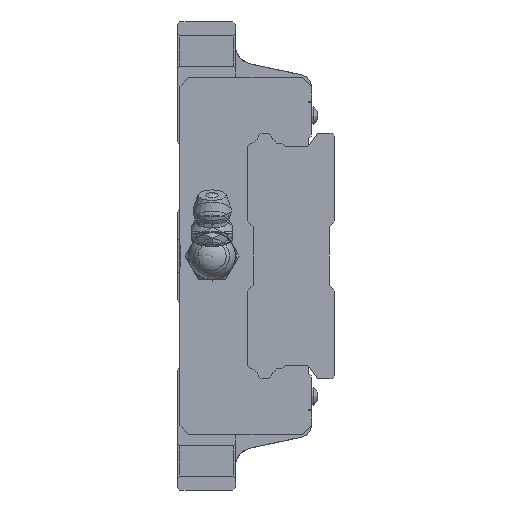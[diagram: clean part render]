
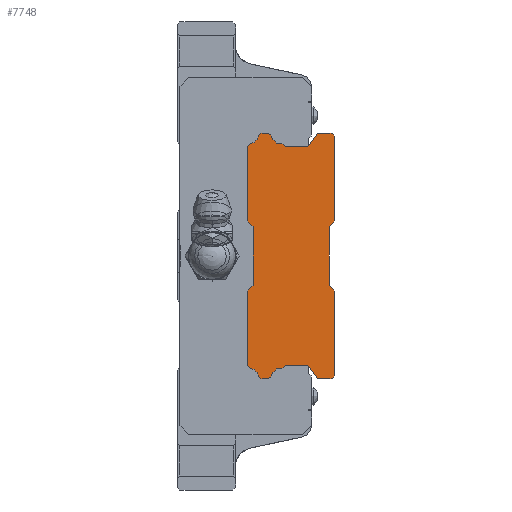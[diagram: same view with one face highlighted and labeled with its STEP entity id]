
A CAD part, left-side view. The second image highlights one B-rep face of the part: STEP entity #7748.
In plain terms, the highlighted planar face has unit normal (-1, 0, 0).
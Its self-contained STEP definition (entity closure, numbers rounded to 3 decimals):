
#314=LINE('',#12648,#670);
#318=LINE('',#12657,#674);
#321=LINE('',#12663,#677);
#325=LINE('',#12675,#681);
#328=LINE('',#12681,#684);
#331=LINE('',#12687,#687);
#334=LINE('',#12693,#690);
#337=LINE('',#12699,#693);
#340=LINE('',#12805,#696);
#343=LINE('',#12811,#699);
#346=LINE('',#12817,#702);
#349=LINE('',#12823,#705);
#352=LINE('',#12929,#708);
#355=LINE('',#12935,#711);
#358=LINE('',#12941,#714);
#361=LINE('',#12947,#717);
#364=LINE('',#12953,#720);
#367=LINE('',#12959,#723);
#371=LINE('',#12971,#727);
#374=LINE('',#12977,#730);
#377=LINE('',#12983,#733);
#381=LINE('',#12995,#737);
#384=LINE('',#13101,#740);
#387=LINE('',#13107,#743);
#390=LINE('',#13113,#746);
#393=LINE('',#13119,#749);
#396=LINE('',#13225,#752);
#399=LINE('',#13231,#755);
#670=VECTOR('',#10010,1000.);
#674=VECTOR('',#10016,1000.);
#677=VECTOR('',#10021,1000.);
#681=VECTOR('',#10033,1000.);
#684=VECTOR('',#10038,1000.);
#687=VECTOR('',#10043,1000.);
#690=VECTOR('',#10048,1000.);
#693=VECTOR('',#10053,1000.);
#696=VECTOR('',#10158,1000.);
#699=VECTOR('',#10163,1000.);
#702=VECTOR('',#10168,1000.);
#705=VECTOR('',#10173,1000.);
#708=VECTOR('',#10278,1000.);
#711=VECTOR('',#10283,1000.);
#714=VECTOR('',#10288,1000.);
#717=VECTOR('',#10293,1000.);
#720=VECTOR('',#10298,1000.);
#723=VECTOR('',#10303,1000.);
#727=VECTOR('',#10315,1000.);
#730=VECTOR('',#10320,1000.);
#733=VECTOR('',#10325,1000.);
#737=VECTOR('',#10337,1000.);
#740=VECTOR('',#10442,1000.);
#743=VECTOR('',#10447,1000.);
#746=VECTOR('',#10452,1000.);
#749=VECTOR('',#10457,1000.);
#752=VECTOR('',#10562,1000.);
#755=VECTOR('',#10567,1000.);
#900=PLANE('',#8630);
#1360=CIRCLE('',#8393,1.65);
#1462=CIRCLE('',#8511,1.65);
#1464=CIRCLE('',#8517,1.65);
#1566=CIRCLE('',#8627,1.65);
#2972=ORIENTED_EDGE('',*,*,#4026,.F.);
#2973=ORIENTED_EDGE('',*,*,#4320,.T.);
#2974=ORIENTED_EDGE('',*,*,#4317,.F.);
#2975=ORIENTED_EDGE('',*,*,#4314,.F.);
#2976=ORIENTED_EDGE('',*,*,#4261,.F.);
#2977=ORIENTED_EDGE('',*,*,#4258,.F.);
#2978=ORIENTED_EDGE('',*,*,#4255,.F.);
#2979=ORIENTED_EDGE('',*,*,#4252,.F.);
#2980=ORIENTED_EDGE('',*,*,#4199,.F.);
#2981=ORIENTED_EDGE('',*,*,#4196,.T.);
#2982=ORIENTED_EDGE('',*,*,#4193,.F.);
#2983=ORIENTED_EDGE('',*,*,#4190,.F.);
#2984=ORIENTED_EDGE('',*,*,#4187,.F.);
#2985=ORIENTED_EDGE('',*,*,#4184,.T.);
#2986=ORIENTED_EDGE('',*,*,#4181,.F.);
#2987=ORIENTED_EDGE('',*,*,#4178,.F.);
#2988=ORIENTED_EDGE('',*,*,#4175,.F.);
#2989=ORIENTED_EDGE('',*,*,#4172,.F.);
#2990=ORIENTED_EDGE('',*,*,#4169,.F.);
#2991=ORIENTED_EDGE('',*,*,#4166,.F.);
#2992=ORIENTED_EDGE('',*,*,#4113,.F.);
#2993=ORIENTED_EDGE('',*,*,#4110,.F.);
#2994=ORIENTED_EDGE('',*,*,#4107,.F.);
#2995=ORIENTED_EDGE('',*,*,#4104,.F.);
#2996=ORIENTED_EDGE('',*,*,#4051,.F.);
#2997=ORIENTED_EDGE('',*,*,#4048,.F.);
#2998=ORIENTED_EDGE('',*,*,#4045,.F.);
#2999=ORIENTED_EDGE('',*,*,#4042,.F.);
#3000=ORIENTED_EDGE('',*,*,#4039,.F.);
#3001=ORIENTED_EDGE('',*,*,#4036,.T.);
#3002=ORIENTED_EDGE('',*,*,#4033,.F.);
#3003=ORIENTED_EDGE('',*,*,#4030,.F.);
#4026=EDGE_CURVE('',#4823,#4824,#314,.T.);
#4030=EDGE_CURVE('',#4824,#4827,#318,.T.);
#4033=EDGE_CURVE('',#4827,#4829,#321,.T.);
#4036=EDGE_CURVE('',#4831,#4829,#1360,.T.);
#4039=EDGE_CURVE('',#4831,#4833,#325,.T.);
#4042=EDGE_CURVE('',#4833,#4835,#328,.T.);
#4045=EDGE_CURVE('',#4835,#4837,#331,.T.);
#4048=EDGE_CURVE('',#4837,#4839,#334,.T.);
#4051=EDGE_CURVE('',#4839,#4841,#337,.T.);
#4104=EDGE_CURVE('',#4841,#4893,#340,.T.);
#4107=EDGE_CURVE('',#4893,#4895,#343,.T.);
#4110=EDGE_CURVE('',#4895,#4897,#346,.T.);
#4113=EDGE_CURVE('',#4897,#4899,#349,.T.);
#4166=EDGE_CURVE('',#4899,#4951,#352,.T.);
#4169=EDGE_CURVE('',#4951,#4953,#355,.T.);
#4172=EDGE_CURVE('',#4953,#4955,#358,.T.);
#4175=EDGE_CURVE('',#4955,#4957,#361,.T.);
#4178=EDGE_CURVE('',#4957,#4959,#364,.T.);
#4181=EDGE_CURVE('',#4959,#4961,#367,.T.);
#4184=EDGE_CURVE('',#4963,#4961,#1462,.T.);
#4187=EDGE_CURVE('',#4963,#4965,#371,.T.);
#4190=EDGE_CURVE('',#4965,#4967,#374,.T.);
#4193=EDGE_CURVE('',#4967,#4969,#377,.T.);
#4196=EDGE_CURVE('',#4971,#4969,#1464,.T.);
#4199=EDGE_CURVE('',#4971,#4973,#381,.T.);
#4252=EDGE_CURVE('',#4973,#5025,#384,.T.);
#4255=EDGE_CURVE('',#5025,#5027,#387,.T.);
#4258=EDGE_CURVE('',#5027,#5029,#390,.T.);
#4261=EDGE_CURVE('',#5029,#5031,#393,.T.);
#4314=EDGE_CURVE('',#5031,#5083,#396,.T.);
#4317=EDGE_CURVE('',#5083,#5085,#399,.T.);
#4320=EDGE_CURVE('',#4823,#5085,#1566,.T.);
#4823=VERTEX_POINT('',#12649);
#4824=VERTEX_POINT('',#12650);
#4827=VERTEX_POINT('',#12658);
#4829=VERTEX_POINT('',#12664);
#4831=VERTEX_POINT('',#12670);
#4833=VERTEX_POINT('',#12676);
#4835=VERTEX_POINT('',#12682);
#4837=VERTEX_POINT('',#12688);
#4839=VERTEX_POINT('',#12694);
#4841=VERTEX_POINT('',#12700);
#4893=VERTEX_POINT('',#12806);
#4895=VERTEX_POINT('',#12812);
#4897=VERTEX_POINT('',#12818);
#4899=VERTEX_POINT('',#12824);
#4951=VERTEX_POINT('',#12930);
#4953=VERTEX_POINT('',#12936);
#4955=VERTEX_POINT('',#12942);
#4957=VERTEX_POINT('',#12948);
#4959=VERTEX_POINT('',#12954);
#4961=VERTEX_POINT('',#12960);
#4963=VERTEX_POINT('',#12966);
#4965=VERTEX_POINT('',#12972);
#4967=VERTEX_POINT('',#12978);
#4969=VERTEX_POINT('',#12984);
#4971=VERTEX_POINT('',#12990);
#4973=VERTEX_POINT('',#12996);
#5025=VERTEX_POINT('',#13102);
#5027=VERTEX_POINT('',#13108);
#5029=VERTEX_POINT('',#13114);
#5031=VERTEX_POINT('',#13120);
#5083=VERTEX_POINT('',#13226);
#5085=VERTEX_POINT('',#13232);
#5813=EDGE_LOOP('',(#2972,#2973,#2974,#2975,#2976,#2977,#2978,#2979,#2980,
#2981,#2982,#2983,#2984,#2985,#2986,#2987,#2988,#2989,#2990,#2991,#2992,
#2993,#2994,#2995,#2996,#2997,#2998,#2999,#3000,#3001,#3002,#3003));
#6904=FACE_BOUND('',#5813,.T.);
#7748=ADVANCED_FACE('',(#6904),#900,.F.);
#8393=AXIS2_PLACEMENT_3D('',#12669,#10026,#10027);
#8511=AXIS2_PLACEMENT_3D('',#12965,#10308,#10309);
#8517=AXIS2_PLACEMENT_3D('',#12989,#10330,#10331);
#8627=AXIS2_PLACEMENT_3D('',#13237,#10572,#10573);
#8630=AXIS2_PLACEMENT_3D('',#13240,#10578,#10579);
#10010=DIRECTION('',(0.,-0.707,0.707));
#10016=DIRECTION('',(0.,-1.,0.));
#10021=DIRECTION('',(0.,-0.778,-0.628));
#10026=DIRECTION('',(1.,0.,0.));
#10027=DIRECTION('',(0.,0.,-1.));
#10033=DIRECTION('',(0.,-0.778,-0.628));
#10038=DIRECTION('',(0.,-1.,0.));
#10043=DIRECTION('',(0.,-0.582,0.813));
#10048=DIRECTION('',(0.,-1.,0.));
#10053=DIRECTION('',(0.,-0.707,-0.707));
#10158=DIRECTION('',(0.,0.,-1.));
#10163=DIRECTION('',(0.,0.707,-0.707));
#10168=DIRECTION('',(0.,0.,-1.));
#10173=DIRECTION('',(0.,-0.707,-0.707));
#10278=DIRECTION('',(0.,0.,-1.));
#10283=DIRECTION('',(0.,0.707,-0.707));
#10288=DIRECTION('',(0.,1.,0.));
#10293=DIRECTION('',(0.,0.582,0.813));
#10298=DIRECTION('',(0.,1.,0.));
#10303=DIRECTION('',(0.,0.778,-0.628));
#10308=DIRECTION('',(1.,0.,0.));
#10309=DIRECTION('',(0.,0.,-1.));
#10315=DIRECTION('',(0.,0.778,-0.628));
#10320=DIRECTION('',(0.,1.,0.));
#10325=DIRECTION('',(0.,0.707,0.707));
#10330=DIRECTION('',(1.,0.,0.));
#10331=DIRECTION('',(0.,0.,-1.));
#10337=DIRECTION('',(0.,0.707,0.707));
#10442=DIRECTION('',(0.,0.,1.));
#10447=DIRECTION('',(0.,-0.707,0.707));
#10452=DIRECTION('',(0.,0.,1.));
#10457=DIRECTION('',(0.,0.707,0.707));
#10562=DIRECTION('',(0.,0.,1.));
#10567=DIRECTION('',(0.,-0.707,0.707));
#10572=DIRECTION('',(1.,0.,0.));
#10573=DIRECTION('',(0.,0.,-1.));
#10578=DIRECTION('',(1.,0.,0.));
#10579=DIRECTION('',(0.,0.,-1.));
#12648=CARTESIAN_POINT('',(-30.,13.061,20.6));
#12649=CARTESIAN_POINT('',(-30.,13.061,20.6));
#12650=CARTESIAN_POINT('',(-30.,12.661,21.));
#12657=CARTESIAN_POINT('',(-30.,12.661,21.));
#12658=CARTESIAN_POINT('',(-30.,11.34,21.));
#12663=CARTESIAN_POINT('',(-30.,11.34,21.));
#12664=CARTESIAN_POINT('',(-30.,10.949,20.684));
#12669=CARTESIAN_POINT('',(-30.,9.305,20.827));
#12670=CARTESIAN_POINT('',(-30.,9.098,19.19));
#12675=CARTESIAN_POINT('',(-30.,9.098,19.19));
#12676=CARTESIAN_POINT('',(-30.,8.441,18.66));
#12681=CARTESIAN_POINT('',(-30.,8.441,18.66));
#12682=CARTESIAN_POINT('',(-30.,4.651,18.66));
#12687=CARTESIAN_POINT('',(-30.,4.651,18.66));
#12688=CARTESIAN_POINT('',(-30.,2.976,21.));
#12693=CARTESIAN_POINT('',(-30.,2.976,21.));
#12694=CARTESIAN_POINT('',(-30.,0.5,21.));
#12699=CARTESIAN_POINT('',(-30.,0.5,21.));
#12700=CARTESIAN_POINT('',(-30.,0.,20.5));
#12805=CARTESIAN_POINT('',(-30.,0.,20.5));
#12806=CARTESIAN_POINT('',(-30.,0.,6.));
#12811=CARTESIAN_POINT('',(-30.,0.,6.));
#12812=CARTESIAN_POINT('',(-30.,1.,5.));
#12817=CARTESIAN_POINT('',(-30.,1.,5.));
#12818=CARTESIAN_POINT('',(-30.,1.,-5.));
#12823=CARTESIAN_POINT('',(-30.,1.,-5.));
#12824=CARTESIAN_POINT('',(-30.,0.,-6.));
#12929=CARTESIAN_POINT('',(-30.,0.,-6.));
#12930=CARTESIAN_POINT('',(-30.,0.,-20.5));
#12935=CARTESIAN_POINT('',(-30.,0.,-20.5));
#12936=CARTESIAN_POINT('',(-30.,0.5,-21.));
#12941=CARTESIAN_POINT('',(-30.,0.5,-21.));
#12942=CARTESIAN_POINT('',(-30.,2.976,-21.));
#12947=CARTESIAN_POINT('',(-30.,2.976,-21.));
#12948=CARTESIAN_POINT('',(-30.,4.651,-18.66));
#12953=CARTESIAN_POINT('',(-30.,4.651,-18.66));
#12954=CARTESIAN_POINT('',(-30.,8.441,-18.66));
#12959=CARTESIAN_POINT('',(-30.,8.441,-18.66));
#12960=CARTESIAN_POINT('',(-30.,9.098,-19.19));
#12965=CARTESIAN_POINT('',(-30.,9.305,-20.827));
#12966=CARTESIAN_POINT('',(-30.,10.949,-20.684));
#12971=CARTESIAN_POINT('',(-30.,10.949,-20.684));
#12972=CARTESIAN_POINT('',(-30.,11.34,-21.));
#12977=CARTESIAN_POINT('',(-30.,11.34,-21.));
#12978=CARTESIAN_POINT('',(-30.,12.661,-21.));
#12983=CARTESIAN_POINT('',(-30.,12.661,-21.));
#12984=CARTESIAN_POINT('',(-30.,13.061,-20.6));
#12989=CARTESIAN_POINT('',(-30.,14.695,-20.827));
#12990=CARTESIAN_POINT('',(-30.,14.467,-19.193));
#12995=CARTESIAN_POINT('',(-30.,14.467,-19.193));
#12996=CARTESIAN_POINT('',(-30.,15.,-18.66));
#13101=CARTESIAN_POINT('',(-30.,15.,-18.66));
#13102=CARTESIAN_POINT('',(-30.,15.,-6.));
#13107=CARTESIAN_POINT('',(-30.,15.,-6.));
#13108=CARTESIAN_POINT('',(-30.,14.,-5.));
#13113=CARTESIAN_POINT('',(-30.,14.,-5.));
#13114=CARTESIAN_POINT('',(-30.,14.,5.));
#13119=CARTESIAN_POINT('',(-30.,14.,5.));
#13120=CARTESIAN_POINT('',(-30.,15.,6.));
#13225=CARTESIAN_POINT('',(-30.,15.,6.));
#13226=CARTESIAN_POINT('',(-30.,15.,18.66));
#13231=CARTESIAN_POINT('',(-30.,15.,18.66));
#13232=CARTESIAN_POINT('',(-30.,14.467,19.193));
#13237=CARTESIAN_POINT('',(-30.,14.695,20.827));
#13240=CARTESIAN_POINT('',(-30.,9.305,20.827));
